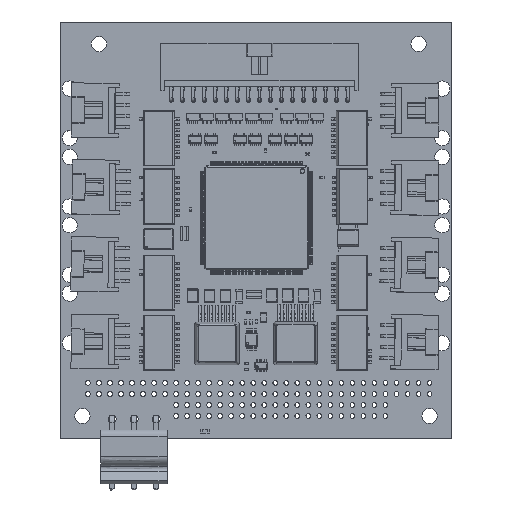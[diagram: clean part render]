
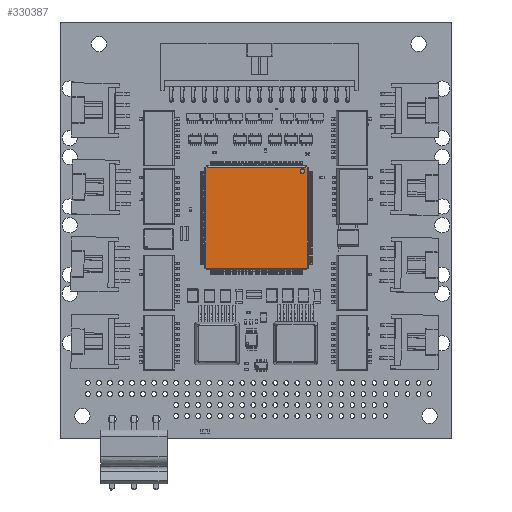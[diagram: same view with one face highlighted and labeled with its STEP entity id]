
A CAD part, top view. The second image highlights one B-rep face of the part: STEP entity #330387.
In plain terms, the highlighted planar face has unit normal (0, 0, 1).
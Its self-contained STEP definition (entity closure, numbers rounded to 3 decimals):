
#2140 = DIRECTION ( 'NONE',  ( 0., -1., 0. ) ) ;
#7636 = ORIENTED_EDGE ( 'NONE', *, *, #336589, .T. ) ;
#10842 = CARTESIAN_POINT ( 'NONE',  ( 56.558, 62.453, 3.185 ) ) ;
#18159 = VECTOR ( 'NONE', #232521, 1000. ) ;
#22908 = DIRECTION ( 'NONE',  ( 0.707, 0.707, 0. ) ) ;
#30801 = EDGE_CURVE ( 'NONE', #249992, #273533, #348492, .T. ) ;
#31624 = CARTESIAN_POINT ( 'NONE',  ( 55.782, 61.502, 3.185 ) ) ;
#32976 = CARTESIAN_POINT ( 'NONE',  ( 55.782, 60.952, 3.185 ) ) ;
#43582 = VERTEX_POINT ( 'NONE', #157354 ) ;
#46733 = FACE_OUTER_BOUND ( 'NONE', #109177, .T. ) ;
#56025 = CARTESIAN_POINT ( 'NONE',  ( 33.481, 62.128, 3.185 ) ) ;
#68854 = CARTESIAN_POINT ( 'NONE',  ( 33.806, 39.051, 3.185 ) ) ;
#72777 = EDGE_CURVE ( 'NONE', #210405, #78379, #331864, .T. ) ;
#74044 = LINE ( 'NONE', #266250, #18159 ) ;
#78379 = VERTEX_POINT ( 'NONE', #293987 ) ;
#87822 = CARTESIAN_POINT ( 'NONE',  ( 33.806, 62.453, 3.185 ) ) ;
#89293 = CARTESIAN_POINT ( 'NONE',  ( 33.726, 62.453, 3.185 ) ) ;
#93467 = LINE ( 'NONE', #89293, #179959 ) ;
#103677 = DIRECTION ( 'NONE',  ( 1., 0., 0. ) ) ;
#104131 = VECTOR ( 'NONE', #122535, 1000. ) ;
#109043 = ORIENTED_EDGE ( 'NONE', *, *, #229415, .T. ) ;
#109177 = EDGE_LOOP ( 'NONE', ( #356068, #317683, #109043, #204329, #148255, #256300, #7636, #297660 ) ) ;
#110630 = VERTEX_POINT ( 'NONE', #87822 ) ;
#110785 = VECTOR ( 'NONE', #342018, 1000. ) ;
#117039 = LINE ( 'NONE', #281851, #153338 ) ;
#122535 = DIRECTION ( 'NONE',  ( 0.707, -0.707, 0. ) ) ;
#124035 = VERTEX_POINT ( 'NONE', #342589 ) ;
#124596 = CARTESIAN_POINT ( 'NONE',  ( 45.182, 50.752, 3.185 ) ) ;
#142691 = CARTESIAN_POINT ( 'NONE',  ( 56.883, 62.128, 3.185 ) ) ;
#148255 = ORIENTED_EDGE ( 'NONE', *, *, #241392, .T. ) ;
#152087 = VECTOR ( 'NONE', #103677, 1000. ) ;
#153338 = VECTOR ( 'NONE', #372793, 1000. ) ;
#157354 = CARTESIAN_POINT ( 'NONE',  ( 56.883, 39.376, 3.185 ) ) ;
#163878 = VERTEX_POINT ( 'NONE', #32976 ) ;
#179959 = VECTOR ( 'NONE', #412421, 1000. ) ;
#196530 = VECTOR ( 'NONE', #354763, 1000. ) ;
#204329 = ORIENTED_EDGE ( 'NONE', *, *, #30801, .T. ) ;
#210405 = VERTEX_POINT ( 'NONE', #68854 ) ;
#213253 = LINE ( 'NONE', #304080, #110785 ) ;
#213548 = DIRECTION ( 'NONE',  ( 0., 1., 0. ) ) ;
#219612 = EDGE_CURVE ( 'NONE', #110630, #288010, #213253, .T. ) ;
#225370 = EDGE_CURVE ( 'NONE', #124035, #210405, #283230, .T. ) ;
#229415 = EDGE_CURVE ( 'NONE', #43582, #249992, #117039, .T. ) ;
#232521 = DIRECTION ( 'NONE',  ( 0., -1., 0. ) ) ;
#239769 = EDGE_CURVE ( 'NONE', #163878, #163878, #290778, .T. ) ;
#241392 = EDGE_CURVE ( 'NONE', #273533, #110630, #93467, .T. ) ;
#249992 = VERTEX_POINT ( 'NONE', #142691 ) ;
#255123 = EDGE_LOOP ( 'NONE', ( #343907 ) ) ;
#256300 = ORIENTED_EDGE ( 'NONE', *, *, #219612, .T. ) ;
#256973 = AXIS2_PLACEMENT_3D ( 'NONE', #31624, #322979, #2140 ) ;
#259619 = CARTESIAN_POINT ( 'NONE',  ( 56.502, 62.509, 3.185 ) ) ;
#264244 = CARTESIAN_POINT ( 'NONE',  ( 56.638, 39.051, 3.185 ) ) ;
#266250 = CARTESIAN_POINT ( 'NONE',  ( 33.481, 39.297, 3.185 ) ) ;
#270572 = FACE_BOUND ( 'NONE', #255123, .T. ) ;
#273533 = VERTEX_POINT ( 'NONE', #10842 ) ;
#281851 = CARTESIAN_POINT ( 'NONE',  ( 56.883, 62.208, 3.185 ) ) ;
#283230 = LINE ( 'NONE', #411927, #104131 ) ;
#288010 = VERTEX_POINT ( 'NONE', #56025 ) ;
#290778 = CIRCLE ( 'NONE', #256973, 0.55 ) ;
#293987 = CARTESIAN_POINT ( 'NONE',  ( 56.558, 39.051, 3.185 ) ) ;
#297660 = ORIENTED_EDGE ( 'NONE', *, *, #225370, .T. ) ;
#304080 = CARTESIAN_POINT ( 'NONE',  ( 33.425, 62.072, 3.185 ) ) ;
#306471 = PLANE ( 'NONE',  #368274 ) ;
#312204 = LINE ( 'NONE', #314268, #342225 ) ;
#314268 = CARTESIAN_POINT ( 'NONE',  ( 56.939, 39.432, 3.185 ) ) ;
#317683 = ORIENTED_EDGE ( 'NONE', *, *, #348278, .T. ) ;
#322979 = DIRECTION ( 'NONE',  ( 0., 0., -1. ) ) ;
#330387 = ADVANCED_FACE ( 'NONE', ( #270572, #46733 ), #306471, .F. ) ;
#331864 = LINE ( 'NONE', #264244, #152087 ) ;
#336589 = EDGE_CURVE ( 'NONE', #288010, #124035, #74044, .T. ) ;
#342018 = DIRECTION ( 'NONE',  ( -0.707, -0.707, 0. ) ) ;
#342225 = VECTOR ( 'NONE', #22908, 1000. ) ;
#342589 = CARTESIAN_POINT ( 'NONE',  ( 33.481, 39.376, 3.185 ) ) ;
#343907 = ORIENTED_EDGE ( 'NONE', *, *, #239769, .T. ) ;
#348278 = EDGE_CURVE ( 'NONE', #78379, #43582, #312204, .T. ) ;
#348492 = LINE ( 'NONE', #259619, #196530 ) ;
#354763 = DIRECTION ( 'NONE',  ( -0.707, 0.707, 0. ) ) ;
#356068 = ORIENTED_EDGE ( 'NONE', *, *, #72777, .T. ) ;
#368274 = AXIS2_PLACEMENT_3D ( 'NONE', #124596, #378219, #213548 ) ;
#372793 = DIRECTION ( 'NONE',  ( 0., 1., 0. ) ) ;
#378219 = DIRECTION ( 'NONE',  ( 0., 0., -1. ) ) ;
#411927 = CARTESIAN_POINT ( 'NONE',  ( 33.862, 38.995, 3.185 ) ) ;
#412421 = DIRECTION ( 'NONE',  ( -1., 0., 0. ) ) ;
